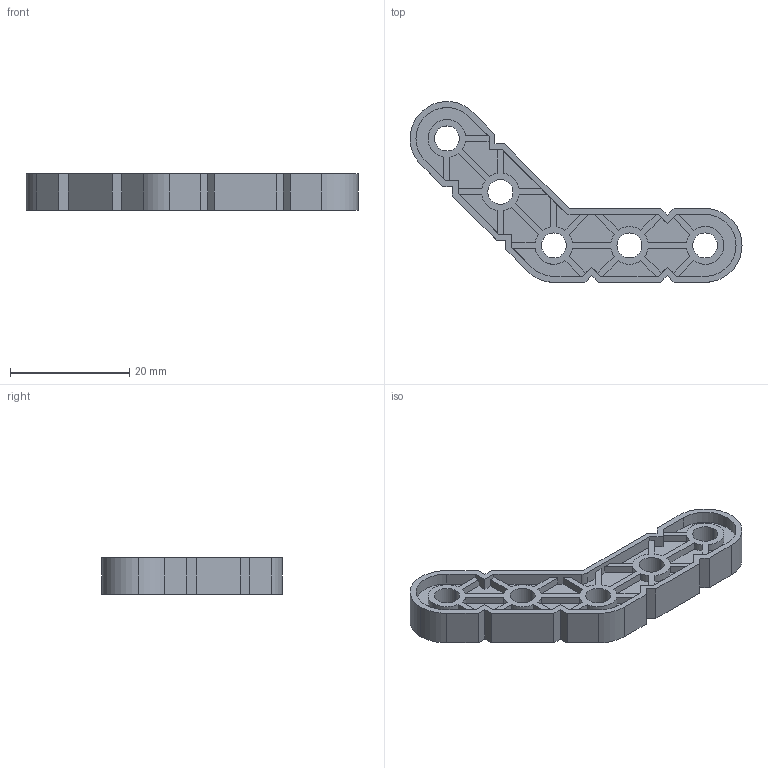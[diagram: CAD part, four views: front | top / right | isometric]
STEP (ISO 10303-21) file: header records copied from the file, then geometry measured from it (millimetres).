
FILE_DESCRIPTION (( 'STEP AP214' ), '1' );
FILE_NAME ('228-2500-148.STEP', '2021-02-18T19:51:56', ( '' ), ( '' ), 'SwSTEP 2.0', 'SolidWorks 2019', '' );
FILE_SCHEMA (( 'AUTOMOTIVE_DESIGN' ));
Length unit declared in the file: millimetre
Products named in the file (1): 228-2500-148
Bounding box: 55.76 x 30.35 x 6.1 mm (x, y, z)
Volume: 2393.1 mm3; surface area: 3720 mm2
Topology: 1 solids, 1 shells, 257 faces, 759 edges, 506 vertices
Faces by surface type: plane 182, cylinder 75
Entity records: 8597 total; most frequent: CARTESIAN_POINT 1523, ORIENTED_EDGE 1518, DIRECTION 1425, EDGE_CURVE 759, VECTOR 609, LINE 609, VERTEX_POINT 506, AXIS2_PLACEMENT_3D 408
